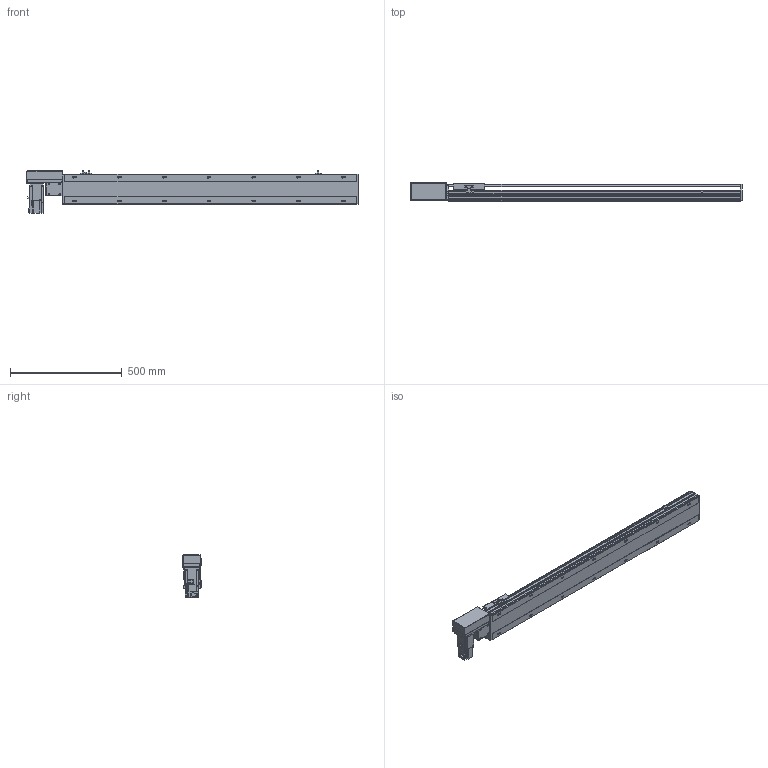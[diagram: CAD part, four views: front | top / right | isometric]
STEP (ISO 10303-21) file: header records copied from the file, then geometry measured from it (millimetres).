
FILE_DESCRIPTION(/* description */ ('STEP AP214'),/* implementation_level */ '2;1');
FILE_NAME(/* name */ 'PBS140-P40-S1050-R-T40-C1-N(0)',/* time_stamp */ '2022-06-06T03:28:07+02:00',/* author */ ('License CC BY-ND 4.0'),/* organization */ ('CADENAS'),/* preprocessor_version */ 'ST-DEVELOPER v18.102',/* originating_system */ 'PARTsolutions',/* authorisation */ ' ');
FILE_SCHEMA (('AUTOMOTIVE_DESIGN {1 0 10303 214 3 1 1}'));
Length unit declared in the file: millimetre
Products named in the file (7): PBS140-P40-S1050-R-T40-C1-N(0); PBS140_sensor; PBS140_plant; PBS140_sliser; T40-p1; PBS140T-R_motors; PBS140-S1050()_body
Assembly tree (8 placements, depth 2):
  PBS140-P40-S1050-R-T40-C1-N(0)
    PBS140_sensor  x3
    PBS140_plant
    PBS140_sliser
    T40-p1
    PBS140T-R_motors
    PBS140-S1050()_body
Bounding box: 1483 x 80.5 x 189.7 mm (x, y, z)
Volume: 6723971.2 mm3; surface area: 1173773.6 mm2
Topology: 8 solids, 8 shells, 1059 faces, 2796 edges, 1827 vertices
Faces by surface type: plane 686, cylinder 323, cone 40, sphere 8, torus 2
Full cylindrical faces by diameter (mm): 3.242 x4, 4 x2, 4.134 x4, 4.4 x8, 4.5 x2, 4.8 x4, 4.917 x22, 5.5 x7, 6 x2, 7 x16, 7.5 x8, 8 x12, 8.5 x4, 10.5 x14, 14 x1, 30 x2, 50 x2
Entity records: 30187 total; most frequent: CARTESIAN_POINT 5553, DIRECTION 5127, ORIENTED_EDGE 4852, EDGE_CURVE 2426, AXIS2_PLACEMENT_3D 1777, VERTEX_POINT 1677, LINE 1573, VECTOR 1573
